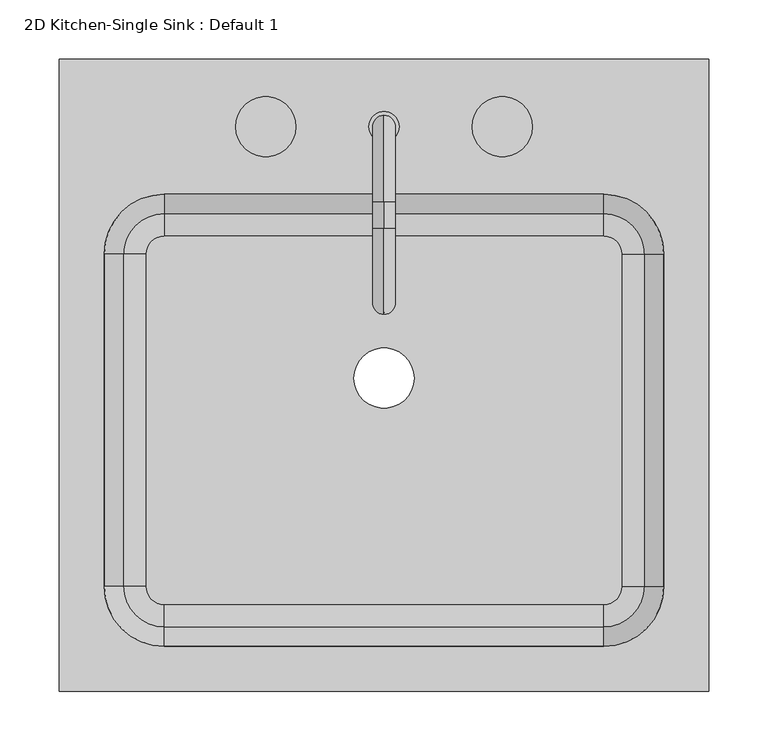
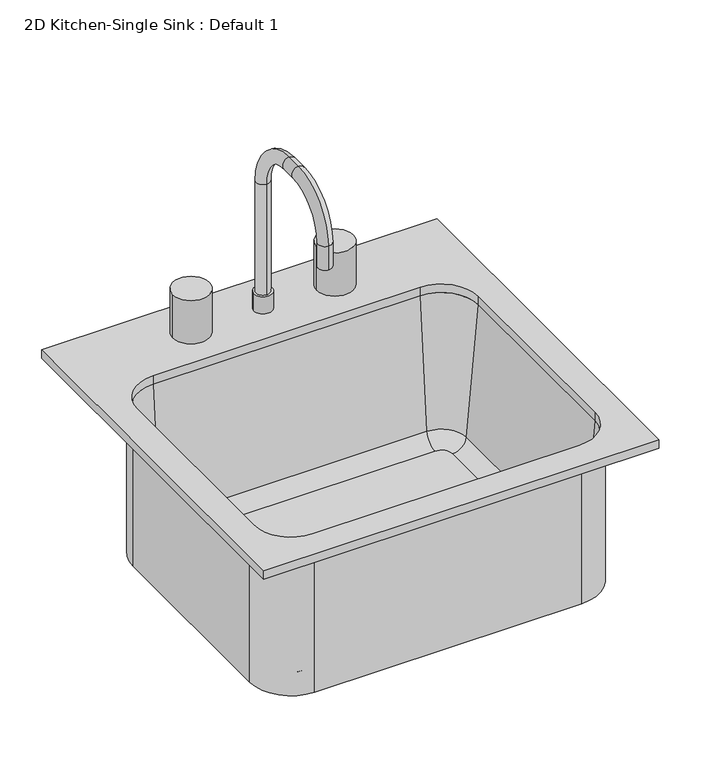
"""IFC4 building model written with IfcOpenShell, lengths in millimetres: flow terminal geometry, 2D Kitchen-Single Sink : Default 1."""

from ifc_helpers import new_model, si_unit, point, frame, frame_2d, origin, place, context, project, spatial, polyline, circle_curve, ellipse_curve, trimmed, segment, composite_curve, outline, extrude, source, transform, mapped, element, save
from ifc_brep_helpers import plane_surface, cylinder_surface, revolved_surface, advanced_brep


def flow_terminal_2d_kitchen_single_sink_default_1_1c0c6233(model_context):
    return source(origin(), model_context, "Body", "SolidModel", [
        advanced_brep(
        [(258.6392406, 104.7454011, 546.1), (201.4892406, 161.8954011, 546.1), (201.4892406, 161.8954011, 762.0), (258.6392406, 104.7454011, 762.0), (258.6392406, -176.2545989, 546.1), (201.4892406, -233.4045989, 546.1), (-170.1107594, -233.4045989, 546.1), (-227.2607594, -176.2545989, 546.1), (-227.2607594, 104.7454011, 546.1), (-170.1107594, 161.8954011, 546.1), (-9.7107594, 0.0, 546.1), (41.0892406, 0.0, 546.1), (216.7776588, 104.7454011, 555.625), (201.4892406, 120.0338193, 555.625), (-170.1107594, 120.0338193, 555.625), (-185.3991776, 104.7454011, 555.625), (-185.3991776, -176.2545989, 555.625), (-170.1107594, -191.5430171, 555.625), (201.4892406, -191.5430171, 555.625), (216.7776588, -176.2545989, 555.625), (-9.7107594, 0.0, 555.625), (41.0892406, 0.0, 555.625), (235.7551678, 104.7454011, 573.0146831), (201.4892406, 139.0113283, 573.0146831), (252.2892406, 104.7454011, 762.0), (201.4892406, 155.5454011, 762.0), (258.6392406, -176.2545989, 762.0), (235.7551678, -176.2545989, 573.0146831), (252.2892406, -176.2545989, 762.0), (201.4892406, -233.4045989, 762.0), (201.4892406, -210.5205261, 573.0146831), (201.4892406, -227.0545989, 762.0), (-170.1107594, -233.4045989, 762.0), (-170.1107594, -210.5205261, 573.0146831), (-170.1107594, -227.0545989, 762.0), (-227.2607594, -176.2545989, 762.0), (-204.3766866, -176.2545989, 573.0146831), (-220.9107594, -176.2545989, 762.0), (-227.2607594, 104.7454011, 762.0), (-204.3766866, 104.7454011, 573.0146831), (-220.9107594, 104.7454011, 762.0), (-170.1107594, 161.8954011, 762.0), (-170.1107594, 139.0113283, 573.0146831), (-170.1107594, 155.5454011, 762.0)],
        [
            (0, 1, circle_curve(frame((201.4892406, 104.7454011, 546.1), z_axis=(0.0, 0.0, 1.0), x_axis=(0.0, 1.0, 0.0)), 57.15)),
            (1, 2),
            (2, 3, circle_curve(frame((201.4892406, 104.7454011, 762.0), z_axis=(0.0, 0.0, -1.0), x_axis=(0.0, 1.0, 0.0)), 57.15)),
            (3, 0),
            (0, 4),
            (4, 5, circle_curve(frame((201.4892406, -176.2545989, 546.1), z_axis=(0.0, 0.0, -1.0), x_axis=(1.0, 0.0, 0.0)), 57.15)),
            (5, 6),
            (6, 7, circle_curve(frame((-170.1107594, -176.2545989, 546.1), z_axis=(0.0, 0.0, -1.0), x_axis=(0.0, -1.0, 0.0)), 57.15)),
            (7, 8),
            (8, 9, circle_curve(frame((-170.1107594, 104.7454011, 546.1), z_axis=(0.0, 0.0, -1.0), x_axis=(-1.0, 0.0, 0.0)), 57.15)),
            (9, 1),
            (10, 11, circle_curve(frame((15.6892406, 0.0, 546.1), z_axis=(0.0, 0.0, 1.0), x_axis=(1.0, 0.0, 0.0)), 25.4)),
            (11, 10, circle_curve(frame((15.6892406, 0.0, 546.1), z_axis=(0.0, 0.0, 1.0), x_axis=(1.0, 0.0, 0.0)), 25.4)),
            (12, 13, circle_curve(frame((201.4892406, 104.7454011, 555.625), z_axis=(0.0, 0.0, 1.0), x_axis=(0.0, 1.0, 0.0)), 15.2884182)),
            (13, 14),
            (14, 15, circle_curve(frame((-170.1107594, 104.7454011, 555.625), z_axis=(0.0, 0.0, 1.0), x_axis=(-1.0, 0.0, 0.0)), 15.2884182)),
            (15, 16),
            (16, 17, circle_curve(frame((-170.1107594, -176.2545989, 555.625), z_axis=(0.0, 0.0, 1.0), x_axis=(0.0, -1.0, 0.0)), 15.2884182)),
            (17, 18),
            (18, 19, circle_curve(frame((201.4892406, -176.2545989, 555.625), z_axis=(0.0, 0.0, 1.0), x_axis=(1.0, 0.0, 0.0)), 15.2884182)),
            (19, 12),
            (20, 21, circle_curve(frame((15.6892406, 0.0, 555.625), z_axis=(0.0, 0.0, -1.0), x_axis=(1.0, 0.0, 0.0)), 25.4)),
            (21, 20, circle_curve(frame((15.6892406, 0.0, 555.625), z_axis=(0.0, 0.0, -1.0), x_axis=(1.0, 0.0, 0.0)), 25.4)),
            (12, 22, circle_curve(frame((216.7776588, 104.7454011, 574.675), z_axis=(0.0, -1.0, 0.0), x_axis=(1.0, 0.0, 0.0)), 19.05)),
            (22, 23, circle_curve(frame((201.4892406, 104.7454011, 573.0146831), z_axis=(0.0, 0.0, 1.0), x_axis=(0.0, 1.0, 0.0)), 34.2659272)),
            (23, 13, circle_curve(frame((201.4892406, 120.0338193, 574.675), z_axis=(-1.0, 0.0, 0.0), x_axis=(0.0, 1.0, 0.0)), 19.05)),
            (22, 24),
            (24, 25, circle_curve(frame((201.4892406, 104.7454011, 762.0), z_axis=(0.0, 0.0, 1.0), x_axis=(0.0, 1.0, 0.0)), 50.8)),
            (25, 23),
            (2, 25),
            (24, 3),
            (3, 26),
            (26, 4),
            (19, 27, circle_curve(frame((216.7776588, -176.2545989, 574.675), z_axis=(0.0, -1.0, 0.0), x_axis=(1.0, 0.0, 0.0)), 19.05)),
            (27, 22),
            (27, 28),
            (28, 24),
            (28, 26),
            (26, 29, circle_curve(frame((201.4892406, -176.2545989, 762.0), z_axis=(0.0, 0.0, -1.0), x_axis=(1.0, 0.0, 0.0)), 57.15)),
            (29, 5),
            (18, 30, circle_curve(frame((201.4892406, -191.5430171, 574.675), z_axis=(-1.0, 0.0, 0.0), x_axis=(0.0, -1.0, 0.0)), 19.05)),
            (30, 27, circle_curve(frame((201.4892406, -176.2545989, 573.0146831), z_axis=(0.0, 0.0, 1.0), x_axis=(1.0, 0.0, 0.0)), 34.2659272)),
            (30, 31),
            (31, 28, circle_curve(frame((201.4892406, -176.2545989, 762.0), z_axis=(0.0, 0.0, 1.0), x_axis=(1.0, 0.0, 0.0)), 50.8)),
            (31, 29),
            (29, 32),
            (32, 6),
            (17, 33, circle_curve(frame((-170.1107594, -191.5430171, 574.675), z_axis=(-1.0, 0.0, 0.0), x_axis=(0.0, -1.0, 0.0)), 19.05)),
            (33, 30),
            (33, 34),
            (34, 31),
            (34, 32),
            (32, 35, circle_curve(frame((-170.1107594, -176.2545989, 762.0), z_axis=(0.0, 0.0, -1.0), x_axis=(0.0, -1.0, 0.0)), 57.15)),
            (35, 7),
            (16, 36, circle_curve(frame((-185.3991776, -176.2545989, 574.675), z_axis=(0.0, 1.0, 0.0), x_axis=(-1.0, 0.0, 0.0)), 19.05)),
            (36, 33, circle_curve(frame((-170.1107594, -176.2545989, 573.0146831), z_axis=(0.0, 0.0, 1.0), x_axis=(0.0, -1.0, 0.0)), 34.2659272)),
            (36, 37),
            (37, 34, circle_curve(frame((-170.1107594, -176.2545989, 762.0), z_axis=(0.0, 0.0, 1.0), x_axis=(0.0, -1.0, 0.0)), 50.8)),
            (37, 35),
            (35, 38),
            (38, 8),
            (15, 39, circle_curve(frame((-185.3991776, 104.7454011, 574.675), z_axis=(0.0, 1.0, 0.0), x_axis=(-1.0, 0.0, 0.0)), 19.05)),
            (39, 36),
            (39, 40),
            (40, 37),
            (40, 38),
            (38, 41, circle_curve(frame((-170.1107594, 104.7454011, 762.0), z_axis=(0.0, 0.0, -1.0), x_axis=(-1.0, 0.0, 0.0)), 57.15)),
            (41, 9),
            (14, 42, circle_curve(frame((-170.1107594, 120.0338193, 574.675), z_axis=(1.0, 0.0, 0.0), x_axis=(0.0, 1.0, 0.0)), 19.05)),
            (42, 39, circle_curve(frame((-170.1107594, 104.7454011, 573.0146831), z_axis=(0.0, 0.0, 1.0), x_axis=(-1.0, 0.0, 0.0)), 34.2659272)),
            (42, 43),
            (43, 40, circle_curve(frame((-170.1107594, 104.7454011, 762.0), z_axis=(0.0, 0.0, 1.0), x_axis=(-1.0, 0.0, 0.0)), 50.8)),
            (43, 41),
            (41, 2),
            (23, 42),
            (25, 43),
            (20, 10),
            (11, 21),
        ],
        [
            cylinder_surface(frame((201.4892406, 104.7454011, 0.0), z_axis=(0.0, 0.0, -1.0), x_axis=(0.0, 1.0, 0.0)), 57.15),
            plane_surface(frame((201.4892406, 104.7454011, 546.1), z_axis=(0.0, 0.0, -1.0), x_axis=(0.0, 1.0, 0.0))),
            plane_surface(frame((201.4892406, 104.7454011, 555.625), z_axis=(0.0, 0.0, 1.0), x_axis=(0.0, 1.0, 0.0))),
            revolved_surface(trimmed(ellipse_curve(frame((201.4892406, 120.0338193, 574.675), z_axis=(1.0, 0.0, 0.0), x_axis=(0.0, 1.0, 0.0)), 19.05, 19.05), [point((201.4892406, 120.0338193, 555.625))], [point((201.4892406, 139.0113283, 573.0146831))], True, "CARTESIAN"), (201.4892406, 104.7454011, 0.0), (0.0, 0.0, -1.0)),
            revolved_surface(polyline([(201.4892406, 139.0113283, 573.0146831), (201.4892406, 155.5454011, 762.0)]), (201.4892406, 104.7454011, 0.0), (0.0, 0.0, -1.0)),
            plane_surface(frame((201.4892406, 104.7454011, 762.0), z_axis=(0.0, 0.0, 1.0), x_axis=(0.0, 1.0, 0.0))),
            plane_surface(frame((258.6392406, 104.7454011, 762.0), z_axis=(1.0, 0.0, 0.0), x_axis=(0.0, -1.0, 0.0))),
            revolved_surface(polyline([(235.82765880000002, -176.25459890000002, 574.675), (235.82765880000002, 104.7454011, 574.675)]), (216.7776588, 104.7454011, 574.675), (0.0, -1.0, 0.0)),
            plane_surface(frame((235.7551678, 104.7454011, 573.0146831), z_axis=(-0.9961946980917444, 0.0, 0.08715574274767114), x_axis=(0.0, -1.0, 0.0))),
            plane_surface(frame((252.2892406, 104.7454011, 762.0), z_axis=(0.0, 0.0, 1.0), x_axis=(0.0, -1.0, 0.0))),
            cylinder_surface(frame((201.4892406, -176.2545989, 0.0), z_axis=(0.0, 0.0, -1.0), x_axis=(1.0, 0.0, 0.0)), 57.15),
            revolved_surface(trimmed(ellipse_curve(frame((216.7776588, -176.2545989, 574.675), z_axis=(0.0, -1.0, 0.0), x_axis=(1.0, 0.0, 0.0)), 19.05, 19.05), [point((216.7776588, -176.2545989, 555.625))], [point((235.7551678, -176.2545989, 573.0146831))], True, "CARTESIAN"), (201.4892406, -176.2545989, 0.0), (0.0, 0.0, -1.0)),
            revolved_surface(polyline([(235.7551678, -176.2545989, 573.0146831), (252.2892406, -176.2545989, 762.0)]), (201.4892406, -176.2545989, 0.0), (0.0, 0.0, -1.0)),
            plane_surface(frame((201.4892406, -176.2545989, 762.0), z_axis=(0.0, 0.0, 1.0), x_axis=(1.0, 0.0, 0.0))),
            plane_surface(frame((201.4892406, -233.4045989, 762.0), z_axis=(0.0, -1.0, 0.0), x_axis=(-1.0, 0.0, 0.0))),
            revolved_surface(polyline([(-170.11075940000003, -210.5930171, 574.675), (201.4892406, -210.5930171, 574.675)]), (201.4892406, -191.5430171, 574.675), (-1.0, 0.0, 0.0)),
            plane_surface(frame((201.4892406, -210.5205261, 573.0146831), z_axis=(0.0, 0.9961946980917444, 0.08715574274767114), x_axis=(-1.0, 0.0, 0.0))),
            plane_surface(frame((201.4892406, -227.0545989, 762.0), z_axis=(0.0, 0.0, 1.0), x_axis=(-1.0, 0.0, 0.0))),
            cylinder_surface(frame((-170.1107594, -176.2545989, 0.0), z_axis=(0.0, 0.0, -1.0), x_axis=(0.0, -1.0, 0.0)), 57.15),
            revolved_surface(trimmed(ellipse_curve(frame((-170.1107594, -191.5430171, 574.675), z_axis=(-1.0, 0.0, 0.0), x_axis=(0.0, -1.0, 0.0)), 19.05, 19.05), [point((-170.1107594, -191.5430171, 555.625))], [point((-170.1107594, -210.5205261, 573.0146831))], True, "CARTESIAN"), (-170.1107594, -176.2545989, 0.0), (0.0, 0.0, -1.0)),
            revolved_surface(polyline([(-170.1107594, -210.5205261, 573.0146831), (-170.1107594, -227.0545989, 762.0)]), (-170.1107594, -176.2545989, 0.0), (0.0, 0.0, -1.0)),
            plane_surface(frame((-170.1107594, -176.2545989, 762.0), z_axis=(0.0, 0.0, 1.0), x_axis=(0.0, -1.0, 0.0))),
            plane_surface(frame((-227.2607594, -176.2545989, 762.0), z_axis=(-1.0, 0.0, 0.0), x_axis=(0.0, 1.0, 0.0))),
            revolved_surface(polyline([(-204.4491776, 104.74540110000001, 574.675), (-204.4491776, -176.2545989, 574.675)]), (-185.3991776, -176.2545989, 574.675), (0.0, 1.0, 0.0)),
            plane_surface(frame((-204.3766866, -176.2545989, 573.0146831), z_axis=(0.9961946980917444, 0.0, 0.08715574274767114), x_axis=(0.0, 1.0, 0.0))),
            plane_surface(frame((-220.9107594, -176.2545989, 762.0), z_axis=(0.0, 0.0, 1.0), x_axis=(0.0, 1.0, 0.0))),
            cylinder_surface(frame((-170.1107594, 104.7454011, 0.0), z_axis=(0.0, 0.0, -1.0), x_axis=(-1.0, 0.0, 0.0)), 57.15),
            revolved_surface(trimmed(ellipse_curve(frame((-185.3991776, 104.7454011, 574.675), z_axis=(0.0, 1.0, 0.0), x_axis=(-1.0, 0.0, 0.0)), 19.05, 19.05), [point((-185.3991776, 104.7454011, 555.625))], [point((-204.3766866, 104.7454011, 573.0146831))], True, "CARTESIAN"), (-170.1107594, 104.7454011, 0.0), (0.0, 0.0, -1.0)),
            revolved_surface(polyline([(-204.3766866, 104.7454011, 573.0146831), (-220.9107594, 104.7454011, 762.0)]), (-170.1107594, 104.7454011, 0.0), (0.0, 0.0, -1.0)),
            plane_surface(frame((-170.1107594, 104.7454011, 762.0), z_axis=(0.0, 0.0, 1.0), x_axis=(-1.0, 0.0, 0.0))),
            plane_surface(frame((-170.1107594, 161.8954011, 762.0), z_axis=(0.0, 1.0, 0.0), x_axis=(1.0, 0.0, 0.0))),
            revolved_surface(polyline([(201.48924060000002, 139.08381930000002, 574.675), (-170.1107594, 139.08381930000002, 574.675)]), (-170.1107594, 120.0338193, 574.675), (1.0, 0.0, 0.0)),
            plane_surface(frame((-170.1107594, 139.0113283, 573.0146831), z_axis=(0.0, -0.9961946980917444, 0.08715574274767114), x_axis=(1.0, 0.0, 0.0))),
            plane_surface(frame((-170.1107594, 155.5454011, 762.0), z_axis=(0.0, 0.0, 1.0), x_axis=(1.0, 0.0, 0.0))),
            revolved_surface(polyline([(41.0892406, 0.0, 546.1), (41.0892406, 0.0, 555.625)]), (15.6892406, 0.0, 0.0), (0.0, 0.0, -1.0)),
        ],
        [
            (0, [[1, 2, 3, 4]]),
            (1, [[-1, 5, 6, 7, 8, 9, 10, 11], [12, 13]]),
            (2, [[14, 15, 16, 17, 18, 19, 20, 21], [22, 23]]),
            (3, [[-14, 24, 25, 26]]),
            (4, [[-25, 27, 28, 29]]),
            (5, [[-3, 30, -28, 31]]),
            (6, [[-4, 32, 33, -5]]),
            (7, [[-24, -21, 34, 35]]),
            (8, [[-27, -35, 36, 37]]),
            (9, [[-31, -37, 38, -32]]),
            (10, [[-33, 39, 40, -6]]),
            (11, [[-34, -20, 41, 42]]),
            (12, [[-36, -42, 43, 44]]),
            (13, [[-38, -44, 45, -39]]),
            (14, [[-40, 46, 47, -7]]),
            (15, [[-41, -19, 48, 49]]),
            (16, [[-43, -49, 50, 51]]),
            (17, [[-45, -51, 52, -46]]),
            (18, [[-47, 53, 54, -8]]),
            (19, [[-48, -18, 55, 56]]),
            (20, [[-50, -56, 57, 58]]),
            (21, [[-52, -58, 59, -53]]),
            (22, [[-54, 60, 61, -9]]),
            (23, [[-55, -17, 62, 63]]),
            (24, [[-57, -63, 64, 65]]),
            (25, [[-59, -65, 66, -60]]),
            (26, [[-61, 67, 68, -10]]),
            (27, [[-62, -16, 69, 70]]),
            (28, [[-64, -70, 71, 72]]),
            (29, [[-66, -72, 73, -67]]),
            (30, [[-2, -11, -68, 74]]),
            (31, [[-26, 75, -69, -15]]),
            (32, [[-29, 76, -71, -75]]),
            (33, [[-30, -74, -73, -76]]),
            (34, [[-22, 77, -13, 78]]),
            (34, [[-23, -78, -12, -77]]),
        ],
    ),
        advanced_brep(
        [(2.9892406, 212.6954011, 800.1), (28.3892406, 212.6954011, 800.1), (15.6892406, 222.2204011, 800.1), (15.6892406, 203.1704011, 800.1), (2.9892406, 212.6954011, 774.7), (28.3892406, 212.6954011, 774.7), (15.6892406, 222.2204011, 962.025), (15.6892406, 203.1704011, 962.025), (15.6892406, 149.1954011, 1035.05), (15.6892406, 149.1954011, 1016.0), (15.6892406, 126.9704011, 1035.05), (15.6892406, 126.9704011, 1016.0), (15.6892406, 53.9454011, 962.025), (15.6892406, 72.9954011, 962.025), (15.6892406, 53.9454011, 927.1), (15.6892406, 72.9954011, 927.1)],
        [
            (0, 1, circle_curve(frame((15.6892406, 212.6954011, 800.1), z_axis=(0.0, 0.0, 1.0), x_axis=(1.0, 0.0, 0.0)), 12.7)),
            (1, 0, circle_curve(frame((15.6892406, 212.6954011, 800.1), z_axis=(0.0, 0.0, 1.0), x_axis=(1.0, 0.0, 0.0)), 12.7)),
            (2, 3, circle_curve(frame((15.6892406, 212.6954011, 800.1), z_axis=(0.0, 0.0, -1.0), x_axis=(0.0, -1.0, 0.0)), 9.525)),
            (3, 2, circle_curve(frame((15.6892406, 212.6954011, 800.1), z_axis=(0.0, 0.0, -1.0), x_axis=(0.0, -1.0, 0.0)), 9.525)),
            (4, 5, circle_curve(frame((15.6892406, 212.6954011, 774.7), z_axis=(0.0, 0.0, -1.0), x_axis=(1.0, 0.0, 0.0)), 12.7)),
            (5, 4, circle_curve(frame((15.6892406, 212.6954011, 774.7), z_axis=(0.0, 0.0, -1.0), x_axis=(1.0, 0.0, 0.0)), 12.7)),
            (0, 4),
            (5, 1),
            (6, 7, circle_curve(frame((15.6892406, 212.6954011, 962.025), z_axis=(0.0, 0.0, -1.0), x_axis=(0.0, -1.0, 0.0)), 9.525)),
            (7, 3),
            (2, 6),
            (7, 6, circle_curve(frame((15.6892406, 212.6954011, 962.025), z_axis=(0.0, 0.0, -1.0), x_axis=(0.0, -1.0, 0.0)), 9.525)),
            (6, 8, circle_curve(frame((15.6892406, 149.1954011, 962.025), z_axis=(1.0, 0.0, 0.0), x_axis=(0.0, 1.0, 0.0)), 73.025)),
            (8, 9, circle_curve(frame((15.6892406, 149.1954011, 1025.525), z_axis=(0.0, 1.0, 0.0), x_axis=(0.0, 0.0, -1.0)), 9.525)),
            (9, 7, circle_curve(frame((15.6892406, 149.1954011, 962.025), z_axis=(-1.0, 0.0, 0.0), x_axis=(0.0, 1.0, 0.0)), 53.975)),
            (9, 8, circle_curve(frame((15.6892406, 149.1954011, 1025.525), z_axis=(0.0, 1.0, 0.0), x_axis=(0.0, 0.0, -1.0)), 9.525)),
            (8, 10),
            (10, 11, circle_curve(frame((15.6892406, 126.9704011, 1025.525), z_axis=(0.0, 1.0, 0.0), x_axis=(0.0, 0.0, -1.0)), 9.525)),
            (11, 9),
            (11, 10, circle_curve(frame((15.6892406, 126.9704011, 1025.525), z_axis=(0.0, 1.0, 0.0), x_axis=(0.0, 0.0, -1.0)), 9.525)),
            (10, 12, circle_curve(frame((15.6892406, 126.9704011, 962.025), z_axis=(1.0, 0.0, 0.0), x_axis=(0.0, 0.0, 1.0)), 73.025)),
            (12, 13, circle_curve(frame((15.6892406, 63.4704011, 962.025), z_axis=(0.0, 0.0, 1.0), x_axis=(0.0, 1.0, 0.0)), 9.525)),
            (13, 11, circle_curve(frame((15.6892406, 126.9704011, 962.025), z_axis=(-1.0, 0.0, 0.0), x_axis=(0.0, 0.0, 1.0)), 53.975)),
            (13, 12, circle_curve(frame((15.6892406, 63.4704011, 962.025), z_axis=(0.0, 0.0, 1.0), x_axis=(0.0, 1.0, 0.0)), 9.525)),
            (14, 15, circle_curve(frame((15.6892406, 63.4704011, 927.1), z_axis=(0.0, 0.0, -1.0), x_axis=(0.0, 1.0, 0.0)), 9.525)),
            (15, 14, circle_curve(frame((15.6892406, 63.4704011, 927.1), z_axis=(0.0, 0.0, -1.0), x_axis=(0.0, 1.0, 0.0)), 9.525)),
            (12, 14),
            (15, 13),
        ],
        [
            plane_surface(frame((28.3892406, 212.6954011, 800.1), z_axis=(0.0, 0.0, 1.0), x_axis=(0.0, 1.0, 0.0))),
            plane_surface(frame((28.3892406, 212.6954011, 774.7), z_axis=(0.0, 0.0, -1.0), x_axis=(0.0, -1.0, 0.0))),
            cylinder_surface(frame((15.6892406, 212.6954011, 774.7), z_axis=(0.0, 0.0, 1.0), x_axis=(1.0, 0.0, 0.0)), 12.7),
            cylinder_surface(frame((15.6892406, 212.6954011, 774.7), z_axis=(0.0, 0.0, -1.0), x_axis=(0.0, -1.0, 0.0)), 9.525),
            revolved_surface(trimmed(ellipse_curve(frame((15.6892406, 212.6954011, 962.025), z_axis=(0.0, 0.0, -1.0), x_axis=(0.0, -1.0, 0.0)), 9.525, 9.525), [point((15.6892406, 222.2204011, 962.025))], [point((15.6892406, 203.1704011, 962.025))], True, "CARTESIAN"), (15.6892406, 149.1954011, 962.025), (1.0, 0.0, 0.0)),
            revolved_surface(trimmed(ellipse_curve(frame((15.6892406, 212.6954011, 962.025), z_axis=(0.0, 0.0, -1.0), x_axis=(0.0, -1.0, 0.0)), 9.525, 9.525), [point((15.6892406, 203.1704011, 962.025))], [point((15.6892406, 222.2204011, 962.025))], True, "CARTESIAN"), (15.6892406, 149.1954011, 962.025), (1.0, 0.0, 0.0)),
            cylinder_surface(frame((15.6892406, 149.1954011, 1025.525), z_axis=(0.0, 1.0, 0.0), x_axis=(0.0, 0.0, -1.0)), 9.525),
            revolved_surface(trimmed(ellipse_curve(frame((15.6892406, 126.9704011, 1025.525), z_axis=(0.0, 1.0, 0.0), x_axis=(0.0, 0.0, -1.0)), 9.525, 9.525), [point((15.6892406, 126.9704011, 1035.05))], [point((15.6892406, 126.9704011, 1016.0))], True, "CARTESIAN"), (15.6892406, 126.9704011, 962.025), (1.0, 0.0, 0.0)),
            revolved_surface(trimmed(ellipse_curve(frame((15.6892406, 126.9704011, 1025.525), z_axis=(0.0, 1.0, 0.0), x_axis=(0.0, 0.0, -1.0)), 9.525, 9.525), [point((15.6892406, 126.9704011, 1016.0))], [point((15.6892406, 126.9704011, 1035.05))], True, "CARTESIAN"), (15.6892406, 126.9704011, 962.025), (1.0, 0.0, 0.0)),
            plane_surface(frame((15.6892406, 53.9454011, 927.1), z_axis=(0.0, 0.0, -1.0), x_axis=(-1.0, 0.0, 0.0))),
            cylinder_surface(frame((15.6892406, 63.4704011, 962.025), z_axis=(0.0, 0.0, 1.0), x_axis=(0.0, 1.0, 0.0)), 9.525),
        ],
        [
            (0, [[1, 2], [3, 4]]),
            (1, [[5, 6]]),
            (2, [[-1, 7, -6, 8]]),
            (2, [[-2, -8, -5, -7]]),
            (3, [[9, 10, -3, 11]]),
            (3, [[12, -11, -4, -10]]),
            (4, [[-9, 13, 14, 15]]),
            (5, [[-12, -15, 16, -13]]),
            (6, [[-14, 17, 18, 19]]),
            (6, [[-16, -19, 20, -17]]),
            (7, [[-18, 21, 22, 23]]),
            (8, [[-20, -23, 24, -21]]),
            (9, [[25, 26]]),
            (10, [[-22, 27, -26, 28]]),
            (10, [[-24, -28, -25, -27]]),
        ],
    ),
        extrude(outline(composite_curve([segment(trimmed(circle_curve(frame_2d((-84.3107594, 212.6954011)), 25.4), [point((-109.7107594, 212.6954011))], [point((-58.9107594, 212.6954011))], False, "CARTESIAN"), True, "CONTINUOUS"), segment(trimmed(circle_curve(frame_2d((-84.3107594, 212.6954011)), 25.4), [point((-58.9107594, 212.6954011))], [point((-109.7107594, 212.6954011))], False, "CARTESIAN"), True, "CONTINUOUS")], self_intersect=False)), frame((0.0, 0.0, 774.7), z_axis=(0.0, 0.0, 1.0), x_axis=(1.0, 0.0, 0.0)), (0.0, 0.0, 1.0), 63.5),
        extrude(outline(composite_curve([segment(trimmed(circle_curve(frame_2d((115.6892406, 212.6954011)), 25.4), [point((90.2892406, 212.6954011))], [point((141.0892406, 212.6954011))], False, "CARTESIAN"), True, "CONTINUOUS"), segment(trimmed(circle_curve(frame_2d((115.6892406, 212.6954011)), 25.4), [point((141.0892406, 212.6954011))], [point((90.2892406, 212.6954011))], False, "CARTESIAN"), True, "CONTINUOUS")], self_intersect=False)), frame((0.0, 0.0, 774.7), z_axis=(0.0, 0.0, 1.0), x_axis=(1.0, 0.0, 0.0)), (0.0, 0.0, 1.0), 63.5),
        extrude(outline(polyline([(290.3892406, 269.8454011), (290.3892406, -265.1545989), (-259.0107594, -265.1545989), (-259.0107594, 269.8454011), (290.3892406, 269.8454011)]), holes=[composite_curve([segment(polyline([(201.4892406, 155.5454011), (-170.1107594, 155.5454011)]), True, "CONTINUOUS"), segment(trimmed(circle_curve(frame_2d((-170.1107594, 104.7454011)), 50.8), [point((-170.1107594, 155.5454011))], [point((-220.9107594, 104.7454011))], True, "CARTESIAN"), True, "CONTINUOUS"), segment(polyline([(-220.9107594, 104.7454011), (-220.9107594, -176.2545989)]), True, "CONTINUOUS"), segment(trimmed(circle_curve(frame_2d((-170.1107594, -176.2545989)), 50.8), [point((-220.9107594, -176.2545989))], [point((-170.1107594, -227.0545989))], True, "CARTESIAN"), True, "CONTINUOUS"), segment(polyline([(-170.1107594, -227.0545989), (201.4892406, -227.0545989)]), True, "CONTINUOUS"), segment(trimmed(circle_curve(frame_2d((201.4892406, -176.2545989)), 50.8), [point((201.4892406, -227.0545989))], [point((252.2892406, -176.2545989))], True, "CARTESIAN"), True, "CONTINUOUS"), segment(polyline([(252.2892406, -176.2545989), (252.2892406, 104.7454011)]), True, "CONTINUOUS"), segment(trimmed(circle_curve(frame_2d((201.4892406, 104.7454011)), 50.8), [point((252.2892406, 104.7454011))], [point((201.4892406, 155.5454011))], True, "CARTESIAN"), True, "CONTINUOUS")], self_intersect=False)]), frame((0.0, 0.0, 762.0), z_axis=(0.0, 0.0, 1.0), x_axis=(1.0, 0.0, 0.0)), (0.0, 0.0, 1.0), 12.7),
    ])


if __name__ == "__main__":
    model = new_model("IFC4")
    model_context = context("Model", 3, world=origin())
    ifc_project = project(units=[si_unit("LENGTHUNIT", "METRE", prefix="MILLI")], contexts=[model_context])
    site = spatial("IfcSite", under=ifc_project)
    building = spatial("IfcBuilding", under=site)
    placement = place(None, origin())
    flow_terminal_2d_kitchen_single_sink_default_1_shape = flow_terminal_2d_kitchen_single_sink_default_1_1c0c6233(model_context)
    element("IfcFlowTerminal", 1, ObjectType="2D Kitchen-Single Sink : Default 1", at=placement, inside=building, context=model_context, shape_type="MappedRepresentation", body=[
        mapped(flow_terminal_2d_kitchen_single_sink_default_1_shape, transform((0.0, 0.0, 0.0), x_axis=(1.0, 0.0, 0.0), y_axis=(0.0, 1.0, 0.0), z_axis=(0.0, 0.0, 1.0))),
    ])
    save(model, "model.ifc")
